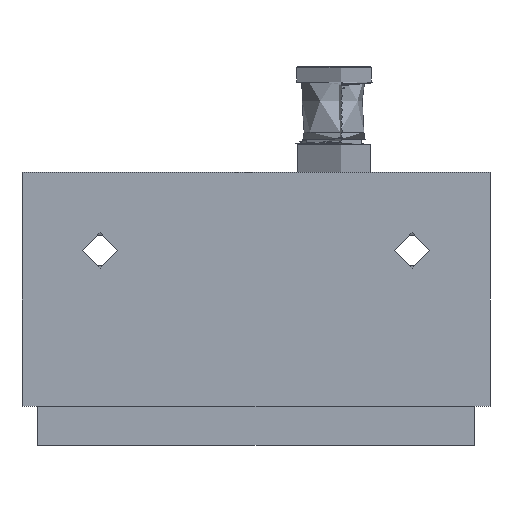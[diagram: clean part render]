
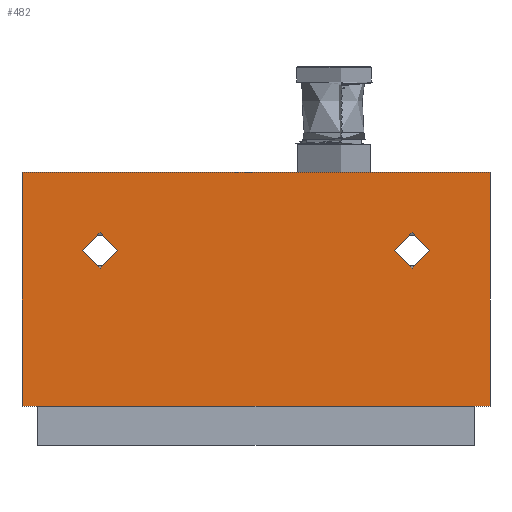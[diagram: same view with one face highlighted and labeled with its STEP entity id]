
A CAD part, front view. The second image highlights one B-rep face of the part: STEP entity #482.
In plain terms, the highlighted planar face has unit normal (0, -1, 0).
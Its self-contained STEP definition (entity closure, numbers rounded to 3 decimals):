
#202=CARTESIAN_POINT('',(-30.0,-12.5,-30.0));
#203=VERTEX_POINT('',#202);
#210=CARTESIAN_POINT('',(-30.0,-12.5,0.0));
#211=VERTEX_POINT('',#210);
#212=CARTESIAN_POINT('',(-30.0,-12.5,0.0));
#213=DIRECTION('',(0.0,0.0,-1.0));
#214=VECTOR('',#213,30.0);
#215=LINE('',#212,#214);
#216=EDGE_CURVE('',#211,#203,#215,.T.);
#279=CARTESIAN_POINT('',(22.25,-12.5,-10.0));
#280=VERTEX_POINT('',#279);
#281=CARTESIAN_POINT('',(20.0,-12.5,-10.0));
#282=DIRECTION('',(0.0,1.0,0.0));
#283=DIRECTION('',(1.0,0.0,0.0));
#284=AXIS2_PLACEMENT_3D('',#281,#282,#283);
#285=CIRCLE('',#284,2.25);
#286=EDGE_CURVE('',#280,#280,#285,.T.);
#335=CARTESIAN_POINT('',(-17.75,-12.5,-10.0));
#336=VERTEX_POINT('',#335);
#337=CARTESIAN_POINT('',(-20.0,-12.5,-10.0));
#338=DIRECTION('',(0.0,1.0,0.0));
#339=DIRECTION('',(1.0,0.0,0.0));
#340=AXIS2_PLACEMENT_3D('',#337,#338,#339);
#341=CIRCLE('',#340,2.25);
#342=EDGE_CURVE('',#336,#336,#341,.T.);
#446=CARTESIAN_POINT('',(-30.0,-12.5,0.0));
#447=DIRECTION('',(0.0,-1.0,0.0));
#448=DIRECTION('',(0.0,0.0,-1.0));
#449=AXIS2_PLACEMENT_3D('',#446,#447,#448);
#450=PLANE('',#449);
#451=CARTESIAN_POINT('',(30.0,-12.5,-30.0));
#452=VERTEX_POINT('',#451);
#453=CARTESIAN_POINT('',(-30.0,-12.5,-30.0));
#454=DIRECTION('',(1.0,0.0,0.0));
#455=VECTOR('',#454,60.0);
#456=LINE('',#453,#455);
#457=EDGE_CURVE('',#203,#452,#456,.T.);
#458=ORIENTED_EDGE('',*,*,#457,.T.);
#459=CARTESIAN_POINT('',(30.0,-12.5,0.0));
#460=VERTEX_POINT('',#459);
#461=CARTESIAN_POINT('',(30.0,-12.5,0.0));
#462=DIRECTION('',(0.0,0.0,-1.0));
#463=VECTOR('',#462,30.0);
#464=LINE('',#461,#463);
#465=EDGE_CURVE('',#460,#452,#464,.T.);
#466=ORIENTED_EDGE('',*,*,#465,.F.);
#467=CARTESIAN_POINT('',(30.0,-12.5,0.0));
#468=DIRECTION('',(-1.0,0.0,0.0));
#469=VECTOR('',#468,60.0);
#470=LINE('',#467,#469);
#471=EDGE_CURVE('',#460,#211,#470,.T.);
#472=ORIENTED_EDGE('',*,*,#471,.T.);
#473=ORIENTED_EDGE('',*,*,#216,.T.);
#474=EDGE_LOOP('',(#458,#466,#472,#473));
#475=FACE_OUTER_BOUND('',#474,.T.);
#476=ORIENTED_EDGE('',*,*,#286,.T.);
#477=EDGE_LOOP('',(#476));
#478=FACE_BOUND('',#477,.T.);
#479=ORIENTED_EDGE('',*,*,#342,.T.);
#480=EDGE_LOOP('',(#479));
#481=FACE_BOUND('',#480,.T.);
#482=ADVANCED_FACE('',(#475,#478,#481),#450,.T.);
